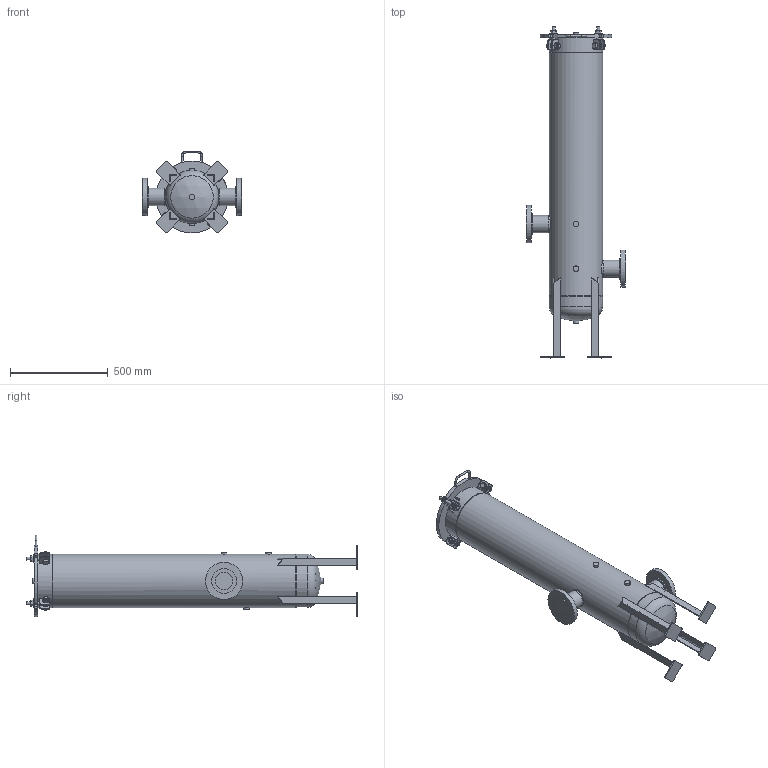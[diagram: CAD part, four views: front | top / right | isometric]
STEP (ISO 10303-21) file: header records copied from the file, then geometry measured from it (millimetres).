
FILE_DESCRIPTION (( 'STEP AP203' ), '1' );
FILE_NAME ('001022-00752.STEP', '2025-12-11T19:18:00', ( '' ), ( '' ), 'SwSTEP 2.0', 'SolidWorks 2023', '' );
FILE_SCHEMA (( 'CONFIG_CONTROL_DESIGN' ));
Length unit declared in the file: inch
Products named in the file (1): 001022-00752
Bounding box: 508 x 1700.21 x 419 mm (x, y, z)
Volume: 20935039.2 mm3; surface area: 3333212.7 mm2
Topology: 6 solids, 6 shells, 594 faces, 1369 edges, 861 vertices
Faces by surface type: plane 282, cylinder 151, cone 140, torus 15, bspline 5, sphere 1
Full cylindrical faces by diameter (mm): 9.525 x2, 15.875 x32, 23.813 x4, 26.987 x4, 28.575 x8, 33.325 x8, 44.45 x4, 88.9 x6, 127 x2, 190.5 x2, 273.05 x1
Entity records: 19479 total; most frequent: CARTESIAN_POINT 6916, DIRECTION 2566, ORIENTED_EDGE 2422, EDGE_CURVE 1211, AXIS2_PLACEMENT_3D 1057, VERTEX_POINT 808, EDGE_LOOP 783, FACE_OUTER_BOUND 688
